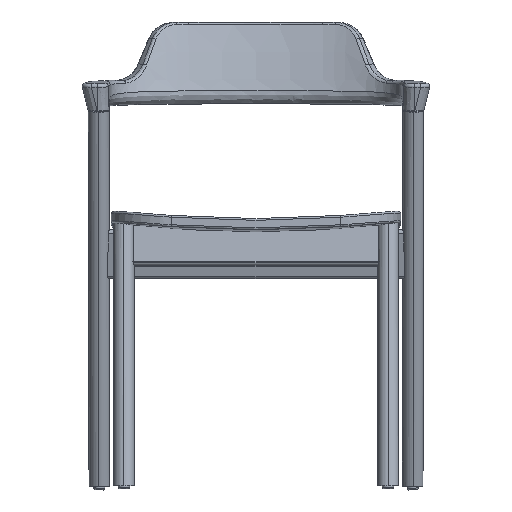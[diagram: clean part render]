
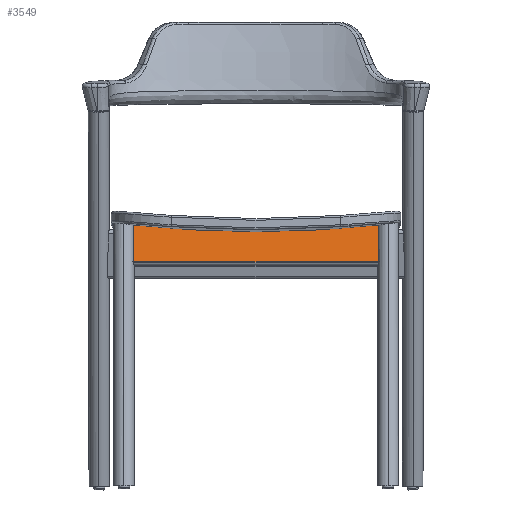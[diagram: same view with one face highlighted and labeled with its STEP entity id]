
A CAD part, top view. The second image highlights one B-rep face of the part: STEP entity #3549.
In plain terms, the highlighted planar face has unit normal (0, 0.174, 0.985).
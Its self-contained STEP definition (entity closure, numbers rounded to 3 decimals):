
#1 = PLANE ( 'NONE',  #7018 ) ;
#513 = ORIENTED_EDGE ( 'NONE', *, *, #8391, .F. ) ;
#726 = CARTESIAN_POINT ( 'NONE',  ( 197.5, 420.62, -78.732 ) ) ;
#1069 = VERTEX_POINT ( 'NONE', #7284 ) ;
#1167 = EDGE_CURVE ( 'NONE', #1069, #13824, #11333, .T. ) ;
#1171 = CARTESIAN_POINT ( 'NONE',  ( 197.5, 414.98, -77.738 ) ) ;
#1534 = VERTEX_POINT ( 'NONE', #14758 ) ;
#2293 = CARTESIAN_POINT ( 'NONE',  ( -197.5, 414.98, -77.738 ) ) ;
#2378 = VECTOR ( 'NONE', #15269, 1000. ) ;
#2599 = CARTESIAN_POINT ( 'NONE',  ( 65.999, 404.173, -75.832 ) ) ;
#2900 = CARTESIAN_POINT ( 'NONE',  ( 0., 404.173, -75.832 ) ) ;
#3118 =( BOUNDED_CURVE ( )  B_SPLINE_CURVE ( 3, ( #1171, #13989, #2599, #12572 ),
 .UNSPECIFIED., .F., .F. ) 
 B_SPLINE_CURVE_WITH_KNOTS ( ( 4, 4 ),
 ( 6.173, 6.283 ),
 .UNSPECIFIED. ) 
 CURVE ( )  GEOMETRIC_REPRESENTATION_ITEM ( )  RATIONAL_B_SPLINE_CURVE ( ( 1., 0.999, 0.999, 1. ) ) 
 REPRESENTATION_ITEM ( '' )  );
#3549 = ADVANCED_FACE ( 'NONE', ( #4926 ), #1, .F. ) ;
#3678 = ORIENTED_EDGE ( 'NONE', *, *, #4606, .T. ) ;
#3704 = CARTESIAN_POINT ( 'NONE',  ( 197.5, 356.607, -67.445 ) ) ;
#3841 = ORIENTED_EDGE ( 'NONE', *, *, #10018, .T. ) ;
#4606 = EDGE_CURVE ( 'NONE', #1534, #10880, #3118, .T. ) ;
#4625 = CARTESIAN_POINT ( 'NONE',  ( -197.5, 414.98, -77.738 ) ) ;
#4631 = DIRECTION ( 'NONE',  ( 0., -0.985, 0.174 ) ) ;
#4926 = FACE_OUTER_BOUND ( 'NONE', #6223, .T. ) ;
#5891 = CARTESIAN_POINT ( 'NONE',  ( -197.5, 420.62, -78.732 ) ) ;
#6123 = CARTESIAN_POINT ( 'NONE',  ( -65.999, 404.173, -75.832 ) ) ;
#6124 = VECTOR ( 'NONE', #4631, 1000. ) ;
#6223 = EDGE_LOOP ( 'NONE', ( #513, #3678, #12220, #3841, #7345 ) ) ;
#6452 = CARTESIAN_POINT ( 'NONE',  ( 197.5, 356.607, -67.445 ) ) ;
#7018 = AXIS2_PLACEMENT_3D ( 'NONE', #9989, #10154, #15084 ) ;
#7284 = CARTESIAN_POINT ( 'NONE',  ( -197.5, 356.607, -67.445 ) ) ;
#7345 = ORIENTED_EDGE ( 'NONE', *, *, #1167, .T. ) ;
#8005 = LINE ( 'NONE', #726, #16346 ) ;
#8391 = EDGE_CURVE ( 'NONE', #1534, #13824, #8005, .T. ) ;
#9989 = CARTESIAN_POINT ( 'NONE',  ( 197.5, 420.62, -78.732 ) ) ;
#10018 = EDGE_CURVE ( 'NONE', #15867, #1069, #16366, .T. ) ;
#10154 = DIRECTION ( 'NONE',  ( 0., -0.174, -0.985 ) ) ;
#10631 = DIRECTION ( 'NONE',  ( 0., -0.985, 0.174 ) ) ;
#10880 = VERTEX_POINT ( 'NONE', #2900 ) ;
#11256 = CARTESIAN_POINT ( 'NONE',  ( 0., 404.173, -75.832 ) ) ;
#11333 = LINE ( 'NONE', #6452, #2378 ) ;
#12220 = ORIENTED_EDGE ( 'NONE', *, *, #15033, .T. ) ;
#12572 = CARTESIAN_POINT ( 'NONE',  ( 0., 404.173, -75.832 ) ) ;
#13824 = VERTEX_POINT ( 'NONE', #3704 ) ;
#13989 = CARTESIAN_POINT ( 'NONE',  ( 131.899, 407.779, -76.468 ) ) ;
#14758 = CARTESIAN_POINT ( 'NONE',  ( 197.5, 414.98, -77.738 ) ) ;
#14781 = CARTESIAN_POINT ( 'NONE',  ( -131.899, 407.779, -76.468 ) ) ;
#15033 = EDGE_CURVE ( 'NONE', #10880, #15867, #16234, .T. ) ;
#15084 = DIRECTION ( 'NONE',  ( 0., 0.985, -0.174 ) ) ;
#15269 = DIRECTION ( 'NONE',  ( 1., 0., 0. ) ) ;
#15867 = VERTEX_POINT ( 'NONE', #2293 ) ;
#16234 =( BOUNDED_CURVE ( )  B_SPLINE_CURVE ( 3, ( #11256, #6123, #14781, #4625 ),
 .UNSPECIFIED., .F., .T. ) 
 B_SPLINE_CURVE_WITH_KNOTS ( ( 4, 4 ),
 ( 0., 0.11 ),
 .UNSPECIFIED. ) 
 CURVE ( )  GEOMETRIC_REPRESENTATION_ITEM ( )  RATIONAL_B_SPLINE_CURVE ( ( 1., 0.999, 0.999, 1. ) ) 
 REPRESENTATION_ITEM ( '' )  );
#16346 = VECTOR ( 'NONE', #10631, 1000. ) ;
#16366 = LINE ( 'NONE', #5891, #6124 ) ;
